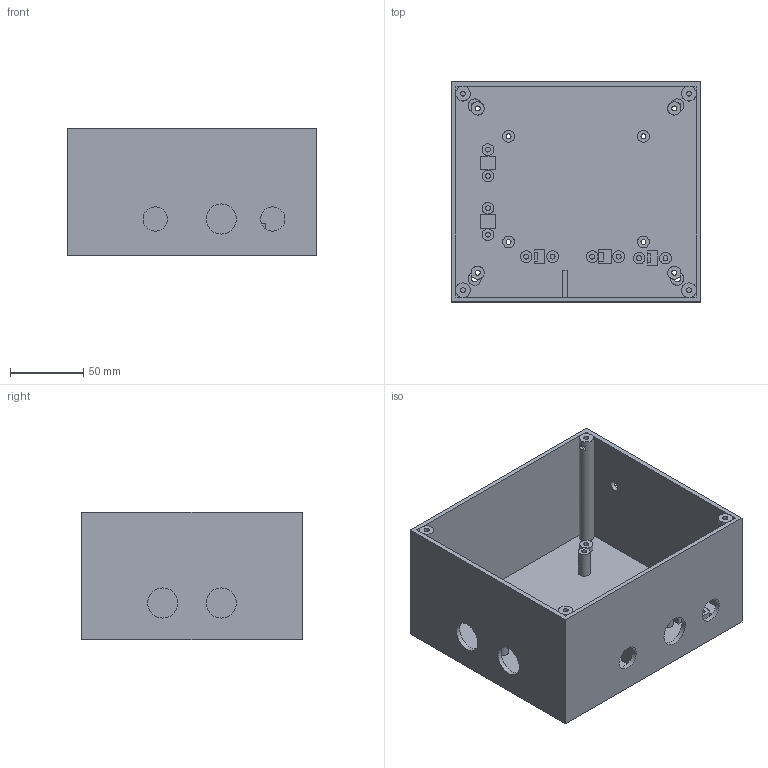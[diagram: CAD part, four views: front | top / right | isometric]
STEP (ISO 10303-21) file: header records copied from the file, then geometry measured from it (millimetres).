
FILE_DESCRIPTION(('Open CASCADE Model'),'2;1');
FILE_NAME('Open CASCADE Shape Model','2026-11-19T15:07:54',('Author'),( 'Open CASCADE'),'Open CASCADE STEP processor 8.0','Open CASCADE 8.0' ,'Unknown');
FILE_SCHEMA(('AUTOMOTIVE_DESIGN { 1 0 10303 214 1 1 1 1 }'));
Length unit declared in the file: millimetre
Products named in the file (1): Open CASCADE STEP translator 8.0 1
Bounding box: 170 x 150 x 86.8 mm (x, y, z)
Volume: 298525.1 mm3; surface area: 172862 mm2
Topology: 1 solids, 1 shells, 419 faces, 1189 edges, 780 vertices
Faces by surface type: plane 330, cylinder 89
Full cylindrical faces by diameter (mm): 3.4 x36, 6.4 x4, 6.5 x1, 8 x14, 9 x4, 16.5 x2, 20.5 x3
Entity records: 29182 total; most frequent: CARTESIAN_POINT 4767, DIRECTION 4735, LINE 2901, VECTOR 2901, ORIENTED_EDGE 2378, PCURVE 2378, DEFINITIONAL_REPRESENTATION 2378, EDGE_CURVE 1189
